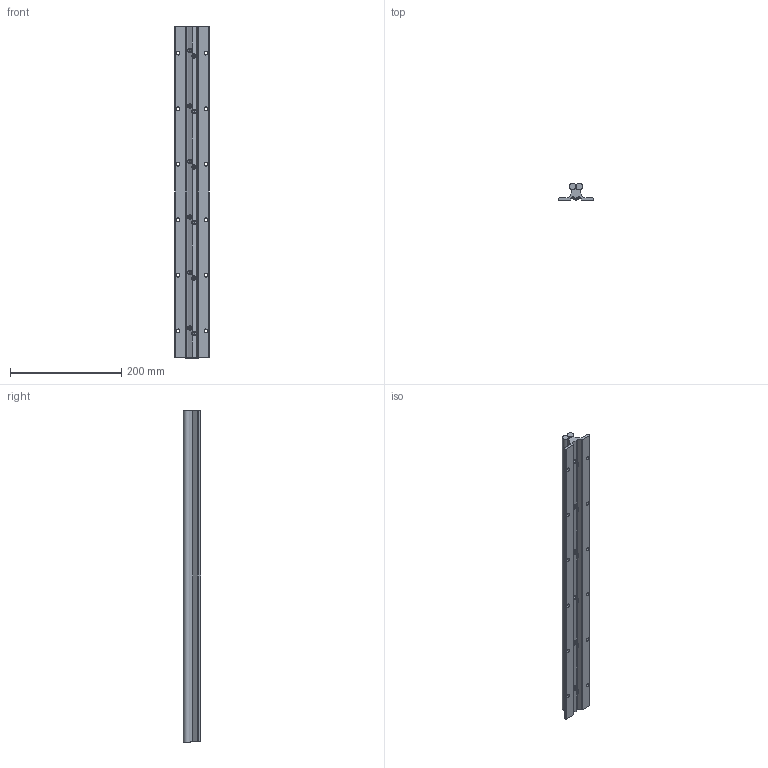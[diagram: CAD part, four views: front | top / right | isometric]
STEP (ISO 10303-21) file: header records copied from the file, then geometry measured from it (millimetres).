
FILE_DESCRIPTION (( 'STEP AP203' ), '1' );
FILE_NAME ('LF 2_-_LF 2 598 mm lang.step', '2005-06-03T06:14:52', ( ' ' ), ( ' ' ), 'SwSTEP 2.0', 'SolidWorks 2004231', '' );
FILE_SCHEMA (( 'CONFIG_CONTROL_DESIGN' ));
Length unit declared in the file: millimetre
Products named in the file (1): LF 2_-_LF 2  598 mm lang
Bounding box: 62 x 31 x 598 mm (x, y, z)
Volume: 415537.7 mm3; surface area: 135851.2 mm2
Topology: 1 solids, 1 shells, 341 faces, 898 edges, 546 vertices
Faces by surface type: cylinder 166, plane 127, cone 24, torus 24
Entity records: 10625 total; most frequent: CARTESIAN_POINT 2722, ORIENTED_EDGE 1748, DIRECTION 1510, EDGE_CURVE 874, VERTEX_POINT 546, AXIS2_PLACEMENT_3D 534, VECTOR 442, LINE 442
